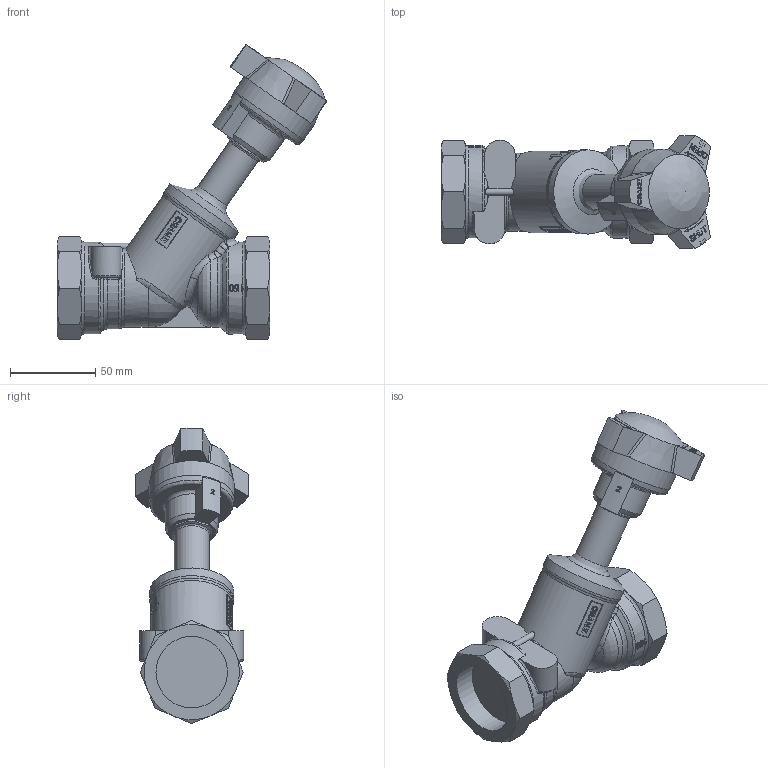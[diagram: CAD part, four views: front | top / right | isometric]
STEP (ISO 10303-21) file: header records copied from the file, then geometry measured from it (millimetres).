
FILE_DESCRIPTION((''),'2;1');
FILE_NAME('P:\Fastrack\53972_CRANE 3D\Workspace\CRANE\D921_1 1-2in\D921_1 1-2in.stp','2011-03-07T09:13:01',('btaylor'),(''),'Autodesk Inventor 2008','Autodesk Inventor 2008','');
FILE_SCHEMA(('AUTOMOTIVE_DESIGN { 1 0 10303 214 1 1 1 1 }'));
Length unit declared in the file: millimetre
Products named in the file (1): D921_1 1-2in
Bounding box: 158.53 x 66.44 x 173.6 mm (x, y, z)
Volume: 383946.2 mm3; surface area: 49968.6 mm2
Topology: 1 solids, 1 shells, 791 faces, 2135 edges, 1390 vertices
Faces by surface type: bspline 368, plane 312, cylinder 58, cone 42, torus 9, sphere 2
Full cylindrical faces by diameter (mm): 20.5 x1, 49.5 x1, 50 x1, 54 x2
Entity records: 82235 total; most frequent: CARTESIAN_POINT 64504, ORIENTED_EDGE 4196, DIRECTION 2299, EDGE_CURVE 2098, VERTEX_POINT 1373, VECTOR 941, LINE 941, EDGE_LOOP 853
